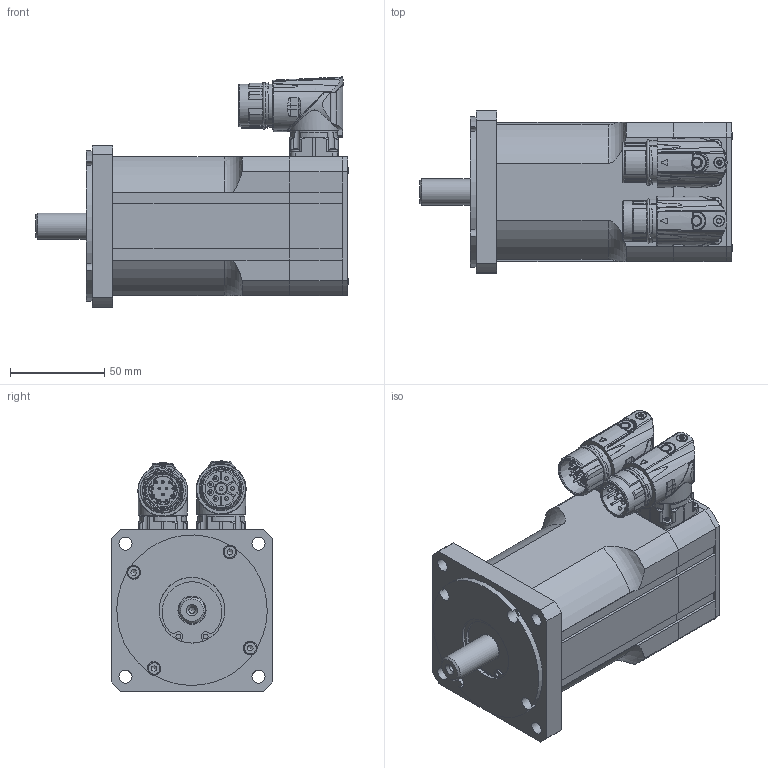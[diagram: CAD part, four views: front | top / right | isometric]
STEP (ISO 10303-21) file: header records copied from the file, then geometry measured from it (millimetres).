
FILE_DESCRIPTION(/* description */ (''),/* implementation_level */ '2;1');
FILE_NAME(/* name */ 'MR6336-Ux-Nxx-G01-A0D-M0-P0.stp',/* time_stamp */ '2017-10-12T13:45:07+02:00',/* author */ (''),/* organization */ (''),/* preprocessor_version */ 'ST-DEVELOPER v16.13',/* originating_system */ 'Autodesk Inventor 2018',/* authorisation */ '');
FILE_SCHEMA (('AUTOMOTIVE_DESIGN { 1 0 10303 214 3 1 1 }'));
Products named in the file (9): MR6336_G01_A0D_M0; MR6336_G01_A0D_M0_front; MR6336_G01_A0D_M0_P0; AED_0201_12-polig, Stift; 124888; 127323; BED_0201_8-polig, Stift; Basis 2; Basis 11
Assembly tree (8 placements, depth 3):
  MR6336_G01_A0D_M0
    MR6336_G01_A0D_M0_front
    MR6336_G01_A0D_M0_P0
    AED_0201_12-polig, Stift
      124888
      127323
    BED_0201_8-polig, Stift
      Basis 2
      Basis 11
Bounding box: 166.2 x 86 x 122.35 mm (x, y, z)
Volume: 364350.1 mm3; surface area: 129420.1 mm2
Topology: 6 solids, 27 shells, 1881 faces, 4559 edges, 2750 vertices
Faces by surface type: cylinder 836, plane 533, bspline 251, cone 146, torus 81, sphere 34
Full cylindrical faces by diameter (mm): 1 x16, 1.18 x12, 1.2 x12, 1.3 x4, 2 x4, 2.013 x4, 2.208 x8, 2.4 x8, 2.459 x12, 2.5 x10, 2.675 x4, 2.7 x4, 2.8 x4, 3 x9, 3.1 x4, 3.2 x1, 3.242 x5, 3.4 x4, 3.5 x4, 4 x4, 4.3 x4, 4.5 x2, 5 x8, 5.5 x2, 5.6 x4, 5.8 x1, 5.9 x2, 6 x4, 6.5 x4, 6.8 x1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
Entity records: 65946 total; most frequent: CARTESIAN_POINT 23009, DIRECTION 8532, ORIENTED_EDGE 8116, EDGE_CURVE 4058, AXIS2_PLACEMENT_3D 3583, VERTEX_POINT 2624, EDGE_LOOP 2398, FACE_OUTER_BOUND 1881
